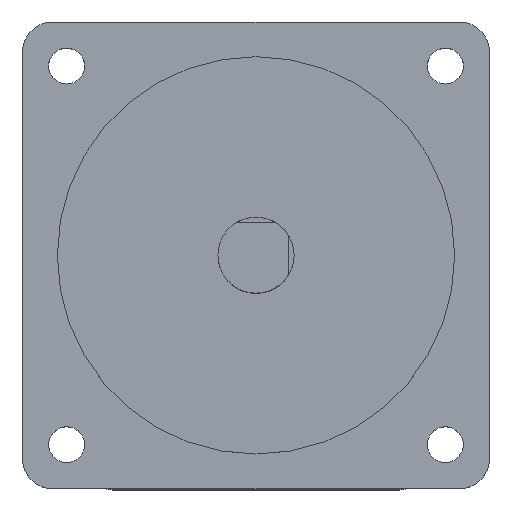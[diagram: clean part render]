
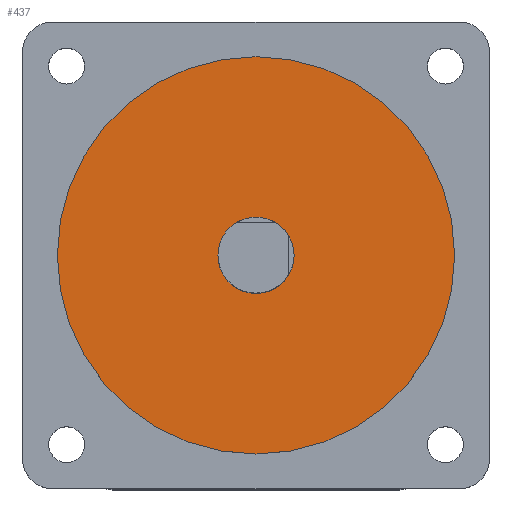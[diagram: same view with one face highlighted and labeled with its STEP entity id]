
A CAD part, top view. The second image highlights one B-rep face of the part: STEP entity #437.
In plain terms, the highlighted planar face has unit normal (0, 0, 1).
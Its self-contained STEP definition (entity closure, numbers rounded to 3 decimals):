
#9 = VERTEX_POINT ( 'NONE', #1239 ) ;
#125 = ORIENTED_EDGE ( 'NONE', *, *, #1651, .T. ) ;
#367 = FACE_OUTER_BOUND ( 'NONE', #644, .T. ) ;
#437 = ADVANCED_FACE ( 'NONE', ( #367, #3440 ), #1154, .T. ) ;
#481 = AXIS2_PLACEMENT_3D ( 'NONE', #916, #2925, #1188 ) ;
#623 = DIRECTION ( 'NONE',  ( 0., 0., 1. ) ) ;
#644 = EDGE_LOOP ( 'NONE', ( #1686, #1054 ) ) ;
#658 = DIRECTION ( 'NONE',  ( 1., 0., 0. ) ) ;
#680 = EDGE_CURVE ( 'NONE', #1602, #2292, #2363, .T. ) ;
#691 = CARTESIAN_POINT ( 'NONE',  ( -7., 0., 2. ) ) ;
#916 = CARTESIAN_POINT ( 'NONE',  ( 0., 0., 2. ) ) ;
#941 = CIRCLE ( 'NONE', #1590, 36.513 ) ;
#1054 = ORIENTED_EDGE ( 'NONE', *, *, #3379, .T. ) ;
#1082 = CARTESIAN_POINT ( 'NONE',  ( 0., 0., 2. ) ) ;
#1154 = PLANE ( 'NONE',  #3522 ) ;
#1188 = DIRECTION ( 'NONE',  ( 1., 0., 0. ) ) ;
#1239 = CARTESIAN_POINT ( 'NONE',  ( 36.513, 0., 2. ) ) ;
#1252 = CIRCLE ( 'NONE', #481, 7. ) ;
#1348 = DIRECTION ( 'NONE',  ( 0., 0., 1. ) ) ;
#1360 = DIRECTION ( 'NONE',  ( 1., 0., 0. ) ) ;
#1506 = CARTESIAN_POINT ( 'NONE',  ( 0., 0., 2. ) ) ;
#1590 = AXIS2_PLACEMENT_3D ( 'NONE', #1082, #3094, #1360 ) ;
#1602 = VERTEX_POINT ( 'NONE', #691 ) ;
#1651 = EDGE_CURVE ( 'NONE', #2292, #1602, #1252, .T. ) ;
#1686 = ORIENTED_EDGE ( 'NONE', *, *, #1942, .T. ) ;
#1929 = ORIENTED_EDGE ( 'NONE', *, *, #680, .T. ) ;
#1942 = EDGE_CURVE ( 'NONE', #3481, #9, #941, .T. ) ;
#2054 = CARTESIAN_POINT ( 'NONE',  ( 7., 0., 2. ) ) ;
#2240 = AXIS2_PLACEMENT_3D ( 'NONE', #3082, #1348, #3366 ) ;
#2272 = DIRECTION ( 'NONE',  ( 1., 0., 0. ) ) ;
#2292 = VERTEX_POINT ( 'NONE', #2054 ) ;
#2363 = CIRCLE ( 'NONE', #2866, 7. ) ;
#2507 = CIRCLE ( 'NONE', #2240, 36.513 ) ;
#2560 = DIRECTION ( 'NONE',  ( 0., 0., -1. ) ) ;
#2582 = CARTESIAN_POINT ( 'NONE',  ( 0., 0., 2. ) ) ;
#2866 = AXIS2_PLACEMENT_3D ( 'NONE', #2582, #2560, #2272 ) ;
#2925 = DIRECTION ( 'NONE',  ( 0., 0., -1. ) ) ;
#3082 = CARTESIAN_POINT ( 'NONE',  ( 0., 0., 2. ) ) ;
#3094 = DIRECTION ( 'NONE',  ( 0., 0., 1. ) ) ;
#3302 = EDGE_LOOP ( 'NONE', ( #1929, #125 ) ) ;
#3366 = DIRECTION ( 'NONE',  ( 1., 0., 0. ) ) ;
#3379 = EDGE_CURVE ( 'NONE', #9, #3481, #2507, .T. ) ;
#3401 = CARTESIAN_POINT ( 'NONE',  ( -36.513, 0., 2. ) ) ;
#3440 = FACE_BOUND ( 'NONE', #3302, .T. ) ;
#3481 = VERTEX_POINT ( 'NONE', #3401 ) ;
#3522 = AXIS2_PLACEMENT_3D ( 'NONE', #1506, #623, #658 ) ;
